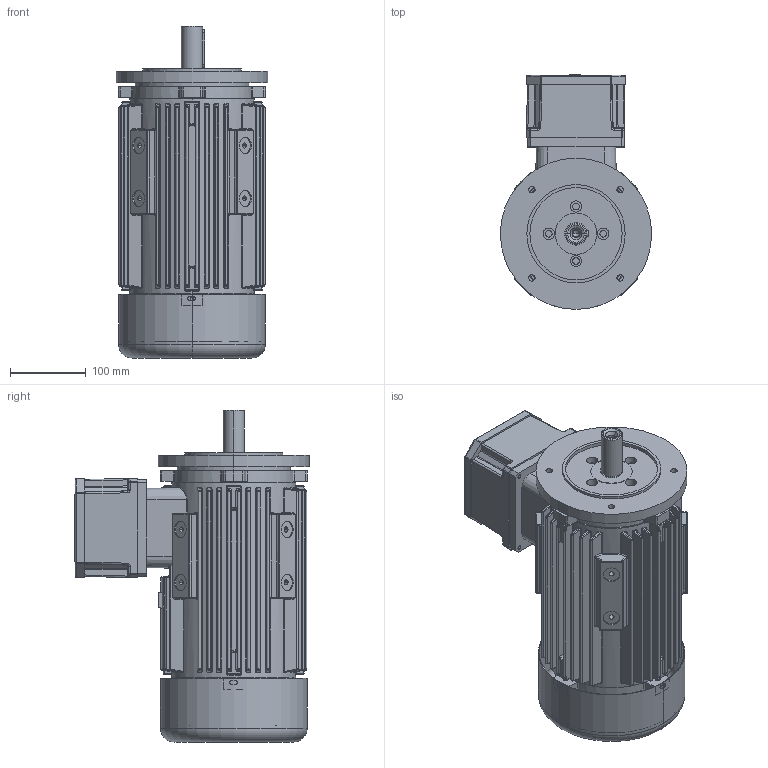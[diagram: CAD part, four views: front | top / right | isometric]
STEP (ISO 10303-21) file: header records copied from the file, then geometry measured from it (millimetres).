
FILE_DESCRIPTION (( 'STEP AP214' ), '1' );
FILE_NAME ('20.18457-D 7AT 100 B14_large Exd STANDK.STEP', '2018-05-11T06:59:41', ( '' ), ( '' ), 'SwSTEP 2.0', 'SolidWorks 2017', '' );
FILE_SCHEMA (( 'AUTOMOTIVE_DESIGN' ));
Length unit declared in the file: millimetre
Products named in the file (1): 20.18457-D 7AT 100 B14_large Exd STANDK
Bounding box: 200 x 310.6 x 439 mm (x, y, z)
Volume: 4409823.9 mm3; surface area: 1133333.6 mm2
Topology: 12 solids, 12 shells, 2643 faces, 6398 edges, 3690 vertices
Faces by surface type: cylinder 999, bspline 772, plane 551, cone 128, torus 105, sphere 88
Entity records: 129692 total; most frequent: CARTESIAN_POINT 47956, ORIENTED_EDGE 12332, DIRECTION 10200, EDGE_CURVE 6166, AXIS2_PLACEMENT_3D 4059, VERTEX_POINT 3690, EDGE_LOOP 2880, ADVANCED_FACE 2643
